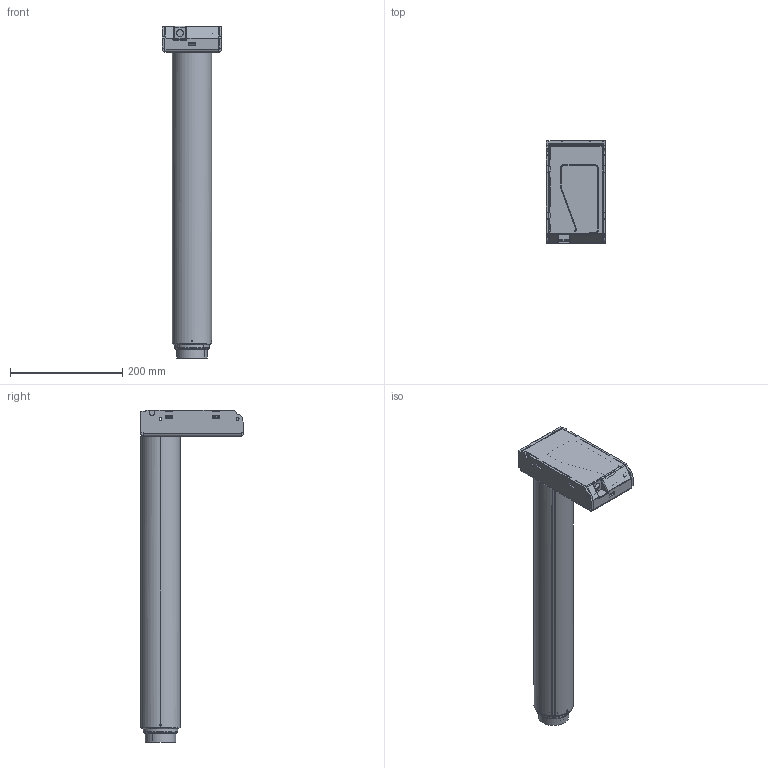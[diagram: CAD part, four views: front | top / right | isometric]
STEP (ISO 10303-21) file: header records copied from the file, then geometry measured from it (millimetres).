
FILE_DESCRIPTION (( 'STEP AP203' ), '1' );
FILE_NAME ('3D_TL9KR.STEP', '2025-07-01T10:53:03', ( '' ), ( '' ), 'SwSTEP 2.0', 'SolidWorks 2015', '' );
FILE_SCHEMA (( 'CONFIG_CONTROL_DESIGN' ));
Length unit declared in the file: inch
Products named in the file (1): 3D_TL9KR
Bounding box: 105.25 x 183.5 x 591.5 mm (x, y, z)
Volume: 725447.9 mm3; surface area: 744047.9 mm2
Topology: 9 solids, 9 shells, 2062 faces, 5514 edges, 3390 vertices
Faces by surface type: cylinder 769, plane 658, bspline 321, cone 176, torus 75, sphere 63
Entity records: 90323 total; most frequent: CARTESIAN_POINT 41983, ORIENTED_EDGE 10886, DIRECTION 9087, EDGE_CURVE 5443, VERTEX_POINT 3390, AXIS2_PLACEMENT_3D 3367, VECTOR 2353, LINE 2353
